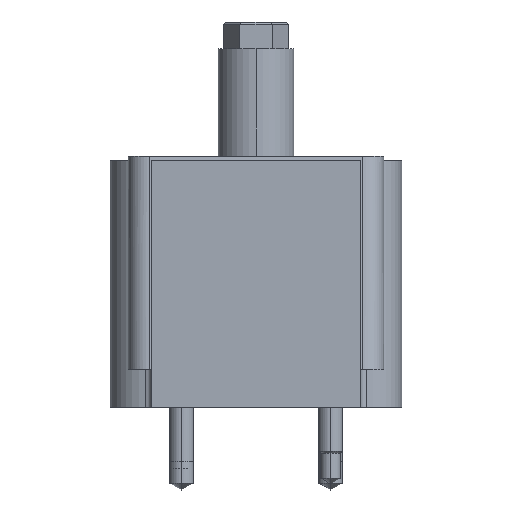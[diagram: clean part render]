
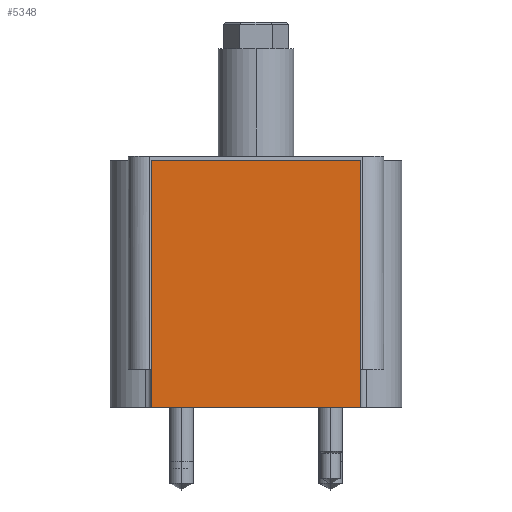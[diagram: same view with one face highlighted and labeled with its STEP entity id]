
A CAD part, left-side view. The second image highlights one B-rep face of the part: STEP entity #5348.
In plain terms, the highlighted planar face has unit normal (-1, 0, 0).
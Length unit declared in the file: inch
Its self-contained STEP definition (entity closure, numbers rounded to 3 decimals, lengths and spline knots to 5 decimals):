
#59 = CARTESIAN_POINT ( 'NONE',  ( -3.315, 1.37749, 3.25 ) ) ;
#811 = DIRECTION ( 'NONE',  ( 0., 0., -1. ) ) ;
#991 = VECTOR ( 'NONE', #5303, 39.37008 ) ;
#1151 = CARTESIAN_POINT ( 'NONE',  ( -3.315, -1.37749, 3.25 ) ) ;
#1280 = VECTOR ( 'NONE', #12922, 39.37008 ) ;
#1632 = VERTEX_POINT ( 'NONE', #1151 ) ;
#1962 = CARTESIAN_POINT ( 'NONE',  ( -3.315, -1.37749, 0. ) ) ;
#2022 = LINE ( 'NONE', #15739, #11512 ) ;
#2472 = DIRECTION ( 'NONE',  ( 0., 0., 1. ) ) ;
#2523 = EDGE_CURVE ( 'NONE', #1632, #9577, #15188, .T. ) ;
#2939 = EDGE_CURVE ( 'NONE', #14613, #8381, #2022, .T. ) ;
#4733 = DIRECTION ( 'NONE',  ( 0., -1., 0. ) ) ;
#5303 = DIRECTION ( 'NONE',  ( 0., 1., 0. ) ) ;
#5348 = ADVANCED_FACE ( 'NONE', ( #12195 ), #9769, .T. ) ;
#5540 = ORIENTED_EDGE ( 'NONE', *, *, #2523, .T. ) ;
#5780 = LINE ( 'NONE', #6907, #7132 ) ;
#6079 = DIRECTION ( 'NONE',  ( -1., 0., 0. ) ) ;
#6907 = CARTESIAN_POINT ( 'NONE',  ( -3.315, 1.37749, 0. ) ) ;
#7132 = VECTOR ( 'NONE', #811, 39.37008 ) ;
#7934 = LINE ( 'NONE', #14120, #1280 ) ;
#8381 = VERTEX_POINT ( 'NONE', #1962 ) ;
#9188 = EDGE_CURVE ( 'NONE', #8381, #1632, #7934, .T. ) ;
#9429 = ORIENTED_EDGE ( 'NONE', *, *, #2939, .T. ) ;
#9577 = VERTEX_POINT ( 'NONE', #59 ) ;
#9769 = PLANE ( 'NONE',  #11927 ) ;
#10205 = ORIENTED_EDGE ( 'NONE', *, *, #14152, .T. ) ;
#10566 = ORIENTED_EDGE ( 'NONE', *, *, #9188, .T. ) ;
#11512 = VECTOR ( 'NONE', #4733, 39.37008 ) ;
#11927 = AXIS2_PLACEMENT_3D ( 'NONE', #13165, #6079, #2472 ) ;
#12195 = FACE_OUTER_BOUND ( 'NONE', #15671, .T. ) ;
#12620 = CARTESIAN_POINT ( 'NONE',  ( -3.315, 0., 3.25 ) ) ;
#12922 = DIRECTION ( 'NONE',  ( 0., 0., 1. ) ) ;
#13165 = CARTESIAN_POINT ( 'NONE',  ( -3.315, 0., 0. ) ) ;
#14120 = CARTESIAN_POINT ( 'NONE',  ( -3.315, -1.37749, 0. ) ) ;
#14152 = EDGE_CURVE ( 'NONE', #9577, #14613, #5780, .T. ) ;
#14613 = VERTEX_POINT ( 'NONE', #15141 ) ;
#15141 = CARTESIAN_POINT ( 'NONE',  ( -3.315, 1.37749, 0. ) ) ;
#15188 = LINE ( 'NONE', #12620, #991 ) ;
#15671 = EDGE_LOOP ( 'NONE', ( #10566, #5540, #10205, #9429 ) ) ;
#15739 = CARTESIAN_POINT ( 'NONE',  ( -3.315, 0., 0. ) ) ;
